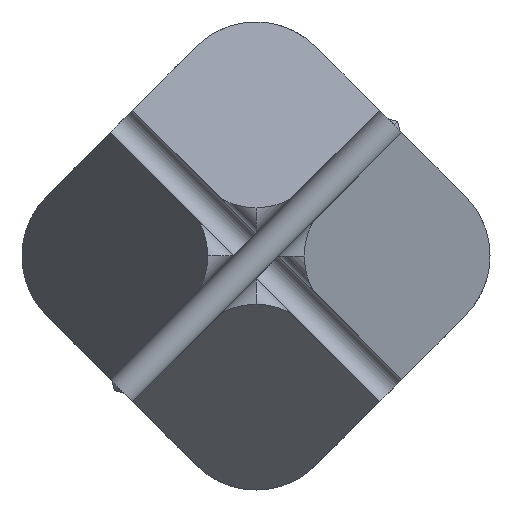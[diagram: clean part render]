
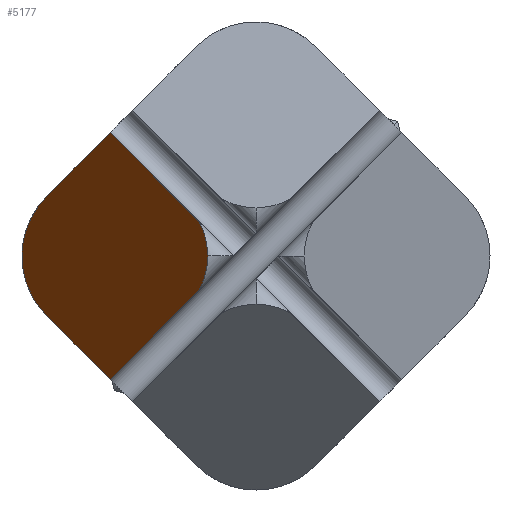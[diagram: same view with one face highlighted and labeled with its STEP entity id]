
A CAD part, front view. The second image highlights one B-rep face of the part: STEP entity #5177.
In plain terms, the highlighted planar face has unit normal (-0.883, -0.469, 0).
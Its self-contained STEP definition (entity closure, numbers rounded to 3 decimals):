
#203 = CARTESIAN_POINT ( 'NONE',  ( -11.556, -17.026, -1.172 ) ) ;
#229 = LINE ( 'NONE', #7033, #1758 ) ;
#252 = CARTESIAN_POINT ( 'NONE',  ( -6.894, -25.794, -5.834 ) ) ;
#299 = CARTESIAN_POINT ( 'NONE',  ( -9.899, -20.142, -2.828 ) ) ;
#367 = EDGE_CURVE ( 'NONE', #5684, #3996, #5888, .T. ) ;
#520 = CARTESIAN_POINT ( 'NONE',  ( -2.271, -34.49, 0. ) ) ;
#674 = ORIENTED_EDGE ( 'NONE', *, *, #4701, .T. ) ;
#696 = CARTESIAN_POINT ( 'NONE',  ( -2.797, -33.5, -1.736 ) ) ;
#836 = CARTESIAN_POINT ( 'NONE',  ( -9.899, -20.142, 2.828 ) ) ;
#922 = ORIENTED_EDGE ( 'NONE', *, *, #6817, .F. ) ;
#1047 = VERTEX_POINT ( 'NONE', #5070 ) ;
#1214 = ORIENTED_EDGE ( 'NONE', *, *, #6355, .T. ) ;
#1458 = ORIENTED_EDGE ( 'NONE', *, *, #367, .T. ) ;
#1464 = CARTESIAN_POINT ( 'NONE',  ( -2.52, -34.021, 1.459 ) ) ;
#1549 = DIRECTION ( 'NONE',  ( -0.883, -0.469, 0. ) ) ;
#1570 = VERTEX_POINT ( 'NONE', #6498 ) ;
#1655 = ORIENTED_EDGE ( 'NONE', *, *, #6110, .T. ) ;
#1758 = VECTOR ( 'NONE', #3080, 1000. ) ;
#1814 = EDGE_CURVE ( 'NONE', #3782, #3002, #2017, .T. ) ;
#1816 = EDGE_LOOP ( 'NONE', ( #674, #1458, #1214, #5645, #3107, #1655, #922 ) ) ;
#1831 = FACE_OUTER_BOUND ( 'NONE', #1816, .T. ) ;
#1968 = AXIS2_PLACEMENT_3D ( 'NONE', #4966, #1549, #5528 ) ;
#2017 =( BOUNDED_CURVE ( )  B_SPLINE_CURVE ( 3, ( #696, #6936, #2354, #6910 ),
 .UNSPECIFIED., .F., .F. ) 
 B_SPLINE_CURVE_WITH_KNOTS ( ( 4, 4 ),
 ( 0.645, 2.071 ),
 .UNSPECIFIED. ) 
 CURVE ( )  GEOMETRIC_REPRESENTATION_ITEM ( )  RATIONAL_B_SPLINE_CURVE ( ( 1., 0.838, 0.838, 1. ) ) 
 REPRESENTATION_ITEM ( '' )  );
#2095 = PLANE ( 'NONE',  #1968 ) ;
#2284 = CARTESIAN_POINT ( 'NONE',  ( -9.899, -20.142, -2.828 ) ) ;
#2354 = CARTESIAN_POINT ( 'NONE',  ( -2.311, -34.414, -0.768 ) ) ;
#2497 = CARTESIAN_POINT ( 'NONE',  ( 0.32, -39.363, -1.381 ) ) ;
#2673 = VERTEX_POINT ( 'NONE', #252 ) ;
#2837 = LINE ( 'NONE', #5147, #7008 ) ;
#2925 =( BOUNDED_CURVE ( )  B_SPLINE_CURVE ( 3, ( #3751, #7111, #1464, #5450 ),
 .UNSPECIFIED., .F., .F. ) 
 B_SPLINE_CURVE_WITH_KNOTS ( ( 4, 4 ),
 ( 4.213, 5.638 ),
 .UNSPECIFIED. ) 
 CURVE ( )  GEOMETRIC_REPRESENTATION_ITEM ( )  RATIONAL_B_SPLINE_CURVE ( ( 1., 0.838, 0.838, 1. ) ) 
 REPRESENTATION_ITEM ( '' )  );
#3002 = VERTEX_POINT ( 'NONE', #520 ) ;
#3064 = EDGE_CURVE ( 'NONE', #2673, #3782, #3660, .T. ) ;
#3080 = DIRECTION ( 'NONE',  ( -0.425, 0.799, -0.425 ) ) ;
#3107 = ORIENTED_EDGE ( 'NONE', *, *, #1814, .T. ) ;
#3447 = DIRECTION ( 'NONE',  ( 0.425, -0.799, 0.425 ) ) ;
#3660 = LINE ( 'NONE', #6269, #6466 ) ;
#3751 = CARTESIAN_POINT ( 'NONE',  ( -2.271, -34.49, 0. ) ) ;
#3782 = VERTEX_POINT ( 'NONE', #6623 ) ;
#3799 = CARTESIAN_POINT ( 'NONE',  ( -11.556, -17.026, 1.172 ) ) ;
#3996 = VERTEX_POINT ( 'NONE', #2284 ) ;
#4017 = DIRECTION ( 'NONE',  ( 0.425, -0.799, -0.425 ) ) ;
#4701 = EDGE_CURVE ( 'NONE', #1047, #5684, #229, .T. ) ;
#4966 = CARTESIAN_POINT ( 'NONE',  ( -25.239, 8.708, 6.5 ) ) ;
#5070 = CARTESIAN_POINT ( 'NONE',  ( -6.894, -25.794, 5.834 ) ) ;
#5147 = CARTESIAN_POINT ( 'NONE',  ( -4.532, -30.236, -8.196 ) ) ;
#5177 = ADVANCED_FACE ( 'NONE', ( #1831 ), #2095, .T. ) ;
#5450 = CARTESIAN_POINT ( 'NONE',  ( -2.797, -33.5, 1.736 ) ) ;
#5527 = CARTESIAN_POINT ( 'NONE',  ( -9.899, -20.142, 2.828 ) ) ;
#5528 = DIRECTION ( 'NONE',  ( 0.469, -0.883, 0. ) ) ;
#5645 = ORIENTED_EDGE ( 'NONE', *, *, #3064, .T. ) ;
#5684 = VERTEX_POINT ( 'NONE', #5527 ) ;
#5743 = VECTOR ( 'NONE', #5884, 1000. ) ;
#5884 = DIRECTION ( 'NONE',  ( 0.425, -0.799, -0.425 ) ) ;
#5888 =( BOUNDED_CURVE ( )  B_SPLINE_CURVE ( 3, ( #836, #3799, #203, #299 ),
 .UNSPECIFIED., .F., .F. ) 
 B_SPLINE_CURVE_WITH_KNOTS ( ( 4, 4 ),
 ( 5.498, 7.069 ),
 .UNSPECIFIED. ) 
 CURVE ( )  GEOMETRIC_REPRESENTATION_ITEM ( )  RATIONAL_B_SPLINE_CURVE ( ( 1., 0.805, 0.805, 1. ) ) 
 REPRESENTATION_ITEM ( '' )  );
#5925 = LINE ( 'NONE', #2497, #5743 ) ;
#6110 = EDGE_CURVE ( 'NONE', #3002, #1570, #2925, .T. ) ;
#6269 = CARTESIAN_POINT ( 'NONE',  ( 0.32, -39.363, 1.381 ) ) ;
#6355 = EDGE_CURVE ( 'NONE', #3996, #2673, #2837, .T. ) ;
#6466 = VECTOR ( 'NONE', #3447, 1000. ) ;
#6498 = CARTESIAN_POINT ( 'NONE',  ( -2.797, -33.5, 1.736 ) ) ;
#6623 = CARTESIAN_POINT ( 'NONE',  ( -2.797, -33.5, -1.736 ) ) ;
#6817 = EDGE_CURVE ( 'NONE', #1047, #1570, #5925, .T. ) ;
#6910 = CARTESIAN_POINT ( 'NONE',  ( -2.271, -34.49, 0. ) ) ;
#6936 = CARTESIAN_POINT ( 'NONE',  ( -2.52, -34.021, -1.459 ) ) ;
#7008 = VECTOR ( 'NONE', #4017, 1000. ) ;
#7033 = CARTESIAN_POINT ( 'NONE',  ( -13.165, -14., -0.437 ) ) ;
#7111 = CARTESIAN_POINT ( 'NONE',  ( -2.311, -34.414, 0.768 ) ) ;
